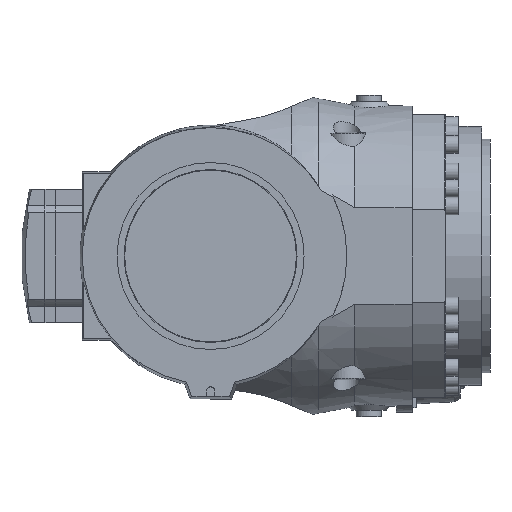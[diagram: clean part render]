
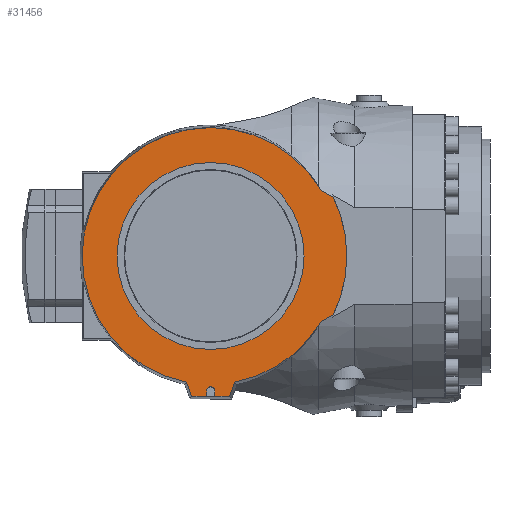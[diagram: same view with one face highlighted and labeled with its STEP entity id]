
A CAD part, front view. The second image highlights one B-rep face of the part: STEP entity #31456.
In plain terms, the highlighted planar face has unit normal (0, -1, 0).
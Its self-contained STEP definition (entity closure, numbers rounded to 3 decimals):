
#66 = VERTEX_POINT ( 'NONE', #29760 ) ;
#194 = VERTEX_POINT ( 'NONE', #31672 ) ;
#619 = CARTESIAN_POINT ( 'NONE',  ( 2116.976, -107., 2479.315 ) ) ;
#635 = AXIS2_PLACEMENT_3D ( 'NONE', #13584, #13423, #18600 ) ;
#751 = CARTESIAN_POINT ( 'NONE',  ( 2024.998, -107., 2424. ) ) ;
#814 = B_SPLINE_CURVE_WITH_KNOTS ( 'NONE', 3,
 ( #8185, #18102, #619, #25571 ),
 .UNSPECIFIED., .F., .F.,
 ( 4, 4 ),
 ( 0.066, 0.076 ),
 .UNSPECIFIED. ) ;
#822 = CARTESIAN_POINT ( 'NONE',  ( 2027.998, -107., 2525. ) ) ;
#1079 = VERTEX_POINT ( 'NONE', #751 ) ;
#1119 = ORIENTED_EDGE ( 'NONE', *, *, #26768, .F. ) ;
#1167 = CARTESIAN_POINT ( 'NONE',  ( 2112.427, -107., 2572.967 ) ) ;
#1336 = CARTESIAN_POINT ( 'NONE',  ( 2113.945, -107., 2572.21 ) ) ;
#2679 = CARTESIAN_POINT ( 'NONE',  ( 2027.998, -107., 2424. ) ) ;
#3563 = DIRECTION ( 'NONE',  ( -0.342, 0., 0.94 ) ) ;
#3843 = VERTEX_POINT ( 'NONE', #4851 ) ;
#3923 = LINE ( 'NONE', #16677, #4560 ) ;
#3960 = CARTESIAN_POINT ( 'NONE',  ( 2110.903, -107., 2573.712 ) ) ;
#4112 = AXIS2_PLACEMENT_3D ( 'NONE', #822, #26238, #31501 ) ;
#4384 = CARTESIAN_POINT ( 'NONE',  ( 2030.998, -107., 2424. ) ) ;
#4560 = VECTOR ( 'NONE', #29702, 1000. ) ;
#4830 = VECTOR ( 'NONE', #9778, 1000. ) ;
#4851 = CARTESIAN_POINT ( 'NONE',  ( 2030.998, -107., 2419.843 ) ) ;
#5549 = VECTOR ( 'NONE', #28117, 1000. ) ;
#6613 = CARTESIAN_POINT ( 'NONE',  ( 2027.998, -107., 2525. ) ) ;
#6614 = AXIS2_PLACEMENT_3D ( 'NONE', #2679, #10215, #20967 ) ;
#6741 = EDGE_CURVE ( 'NONE', #28115, #3843, #8126, .T. ) ;
#7382 = VERTEX_POINT ( 'NONE', #27356 ) ;
#8126 = LINE ( 'NONE', #18207, #5549 ) ;
#8185 = CARTESIAN_POINT ( 'NONE',  ( 2110.903, -107., 2476.288 ) ) ;
#9167 = CARTESIAN_POINT ( 'NONE',  ( 2046.003, -107., 2430.543 ) ) ;
#9232 = LINE ( 'NONE', #18814, #16745 ) ;
#9364 = EDGE_LOOP ( 'NONE', ( #23212, #22062, #21254, #32480, #30063, #29311, #23351, #19866, #31509, #10288, #14054, #1119 ) ) ;
#9778 = DIRECTION ( 'NONE',  ( 0., 0., -1. ) ) ;
#9920 = EDGE_CURVE ( 'NONE', #7382, #7382, #28314, .T. ) ;
#9933 = FACE_BOUND ( 'NONE', #11663, .T. ) ;
#10132 = CARTESIAN_POINT ( 'NONE',  ( 2110.903, -107., 2573.712 ) ) ;
#10215 = DIRECTION ( 'NONE',  ( 0., -1., 0. ) ) ;
#10288 = ORIENTED_EDGE ( 'NONE', *, *, #28531, .F. ) ;
#10490 = B_SPLINE_CURVE_WITH_KNOTS ( 'NONE', 3,
 ( #14103, #13616, #26423, #1336, #1167, #3960 ),
 .UNSPECIFIED., .F., .F.,
 ( 4, 2, 4 ),
 ( 0.111, 0.116, 0.122 ),
 .UNSPECIFIED. ) ;
#10693 = CIRCLE ( 'NONE', #6614, 3. ) ;
#11402 = VERTEX_POINT ( 'NONE', #4384 ) ;
#11663 = EDGE_LOOP ( 'NONE', ( #12911 ) ) ;
#11725 = CARTESIAN_POINT ( 'NONE',  ( 2080.362, -107., 2524.946 ) ) ;
#12042 = CARTESIAN_POINT ( 'NONE',  ( 2024.998, -107., 2424. ) ) ;
#12099 = EDGE_CURVE ( 'NONE', #194, #22536, #28986, .T. ) ;
#12654 = CARTESIAN_POINT ( 'NONE',  ( 2110.903, -107., 2476.288 ) ) ;
#12911 = ORIENTED_EDGE ( 'NONE', *, *, #9920, .T. ) ;
#13423 = DIRECTION ( 'NONE',  ( 0., 1., 0. ) ) ;
#13584 = CARTESIAN_POINT ( 'NONE',  ( 2027.998, -107., 2525. ) ) ;
#13616 = CARTESIAN_POINT ( 'NONE',  ( 2118.479, -107., 2569.886 ) ) ;
#13790 = DIRECTION ( 'NONE',  ( 0., 0., 1. ) ) ;
#13924 = CIRCLE ( 'NONE', #29164, 96.157 ) ;
#14032 = DIRECTION ( 'NONE',  ( -0.342, 0., -0.94 ) ) ;
#14054 = ORIENTED_EDGE ( 'NONE', *, *, #31380, .F. ) ;
#14103 = CARTESIAN_POINT ( 'NONE',  ( 2119.977, -107., 2569.088 ) ) ;
#14853 = CARTESIAN_POINT ( 'NONE',  ( 2119.977, -107., 2480.912 ) ) ;
#15096 = CARTESIAN_POINT ( 'NONE',  ( 2009.993, -107., 2430.543 ) ) ;
#16558 = DIRECTION ( 'NONE',  ( -1., 0., 0. ) ) ;
#16677 = CARTESIAN_POINT ( 'NONE',  ( 2041.998, -107., 2419.843 ) ) ;
#16745 = VECTOR ( 'NONE', #13790, 1000. ) ;
#16799 = AXIS2_PLACEMENT_3D ( 'NONE', #20845, #25669, #28441 ) ;
#18102 = CARTESIAN_POINT ( 'NONE',  ( 2113.95, -107., 2477.778 ) ) ;
#18183 = CIRCLE ( 'NONE', #4112, 96.157 ) ;
#18207 = CARTESIAN_POINT ( 'NONE',  ( 2041.998, -107., 2419.843 ) ) ;
#18390 = DIRECTION ( 'NONE',  ( 1., 0., 0. ) ) ;
#18447 = VECTOR ( 'NONE', #3563, 1000. ) ;
#18600 = DIRECTION ( 'NONE',  ( 1., 0., 0. ) ) ;
#18805 = EDGE_CURVE ( 'NONE', #21487, #23928, #18183, .T. ) ;
#18814 = CARTESIAN_POINT ( 'NONE',  ( 2030.998, -107., 2404. ) ) ;
#19410 = VERTEX_POINT ( 'NONE', #14853 ) ;
#19866 = ORIENTED_EDGE ( 'NONE', *, *, #21191, .F. ) ;
#20073 = EDGE_CURVE ( 'NONE', #3843, #11402, #9232, .T. ) ;
#20185 = FACE_OUTER_BOUND ( 'NONE', #9364, .T. ) ;
#20429 = EDGE_CURVE ( 'NONE', #23928, #28115, #28346, .T. ) ;
#20549 = CIRCLE ( 'NONE', #635, 102. ) ;
#20845 = CARTESIAN_POINT ( 'NONE',  ( 2097.998, -107., 2525. ) ) ;
#20967 = DIRECTION ( 'NONE',  ( -1., 0., 0. ) ) ;
#21191 = EDGE_CURVE ( 'NONE', #22536, #30514, #13924, .T. ) ;
#21254 = ORIENTED_EDGE ( 'NONE', *, *, #20429, .F. ) ;
#21439 = AXIS2_PLACEMENT_3D ( 'NONE', #6613, #31219, #16558 ) ;
#21487 = VERTEX_POINT ( 'NONE', #12654 ) ;
#22062 = ORIENTED_EDGE ( 'NONE', *, *, #6741, .F. ) ;
#22536 = VERTEX_POINT ( 'NONE', #15096 ) ;
#22875 = CARTESIAN_POINT ( 'NONE',  ( 2042.108, -107., 2419.843 ) ) ;
#23212 = ORIENTED_EDGE ( 'NONE', *, *, #20073, .F. ) ;
#23351 = ORIENTED_EDGE ( 'NONE', *, *, #32287, .T. ) ;
#23928 = VERTEX_POINT ( 'NONE', #9167 ) ;
#25248 = EDGE_CURVE ( 'NONE', #30364, #19410, #20549, .T. ) ;
#25571 = CARTESIAN_POINT ( 'NONE',  ( 2119.977, -107., 2480.912 ) ) ;
#25669 = DIRECTION ( 'NONE',  ( 0., -1., 0. ) ) ;
#26030 = CARTESIAN_POINT ( 'NONE',  ( 2013.85, -107., 2419.946 ) ) ;
#26238 = DIRECTION ( 'NONE',  ( 0., 1., 0. ) ) ;
#26423 = CARTESIAN_POINT ( 'NONE',  ( 2116.971, -107., 2570.669 ) ) ;
#26768 = EDGE_CURVE ( 'NONE', #11402, #1079, #10693, .T. ) ;
#26946 = VECTOR ( 'NONE', #14032, 1000. ) ;
#27356 = CARTESIAN_POINT ( 'NONE',  ( 1957.998, -107., 2525. ) ) ;
#27488 = LINE ( 'NONE', #12042, #4830 ) ;
#28115 = VERTEX_POINT ( 'NONE', #22875 ) ;
#28117 = DIRECTION ( 'NONE',  ( -1., 0., 0. ) ) ;
#28314 = CIRCLE ( 'NONE', #21439, 70. ) ;
#28346 = LINE ( 'NONE', #11725, #26946 ) ;
#28441 = DIRECTION ( 'NONE',  ( 1., 0., 0. ) ) ;
#28531 = EDGE_CURVE ( 'NONE', #66, #194, #3923, .T. ) ;
#28564 = EDGE_CURVE ( 'NONE', #21487, #19410, #814, .T. ) ;
#28986 = LINE ( 'NONE', #26030, #18447 ) ;
#29164 = AXIS2_PLACEMENT_3D ( 'NONE', #31269, #30956, #18390 ) ;
#29311 = ORIENTED_EDGE ( 'NONE', *, *, #25248, .F. ) ;
#29702 = DIRECTION ( 'NONE',  ( -1., 0., 0. ) ) ;
#29760 = CARTESIAN_POINT ( 'NONE',  ( 2024.998, -107., 2419.843 ) ) ;
#30063 = ORIENTED_EDGE ( 'NONE', *, *, #28564, .T. ) ;
#30276 = PLANE ( 'NONE',  #16799 ) ;
#30364 = VERTEX_POINT ( 'NONE', #32355 ) ;
#30514 = VERTEX_POINT ( 'NONE', #10132 ) ;
#30956 = DIRECTION ( 'NONE',  ( 0., 1., 0. ) ) ;
#31219 = DIRECTION ( 'NONE',  ( 0., 1., 0. ) ) ;
#31269 = CARTESIAN_POINT ( 'NONE',  ( 2027.998, -107., 2525. ) ) ;
#31380 = EDGE_CURVE ( 'NONE', #1079, #66, #27488, .T. ) ;
#31456 = ADVANCED_FACE ( 'NONE', ( #20185, #9933 ), #30276, .T. ) ;
#31501 = DIRECTION ( 'NONE',  ( 1., 0., 0. ) ) ;
#31509 = ORIENTED_EDGE ( 'NONE', *, *, #12099, .F. ) ;
#31672 = CARTESIAN_POINT ( 'NONE',  ( 2013.888, -107., 2419.843 ) ) ;
#32287 = EDGE_CURVE ( 'NONE', #30364, #30514, #10490, .T. ) ;
#32355 = CARTESIAN_POINT ( 'NONE',  ( 2119.977, -107., 2569.088 ) ) ;
#32480 = ORIENTED_EDGE ( 'NONE', *, *, #18805, .F. ) ;
